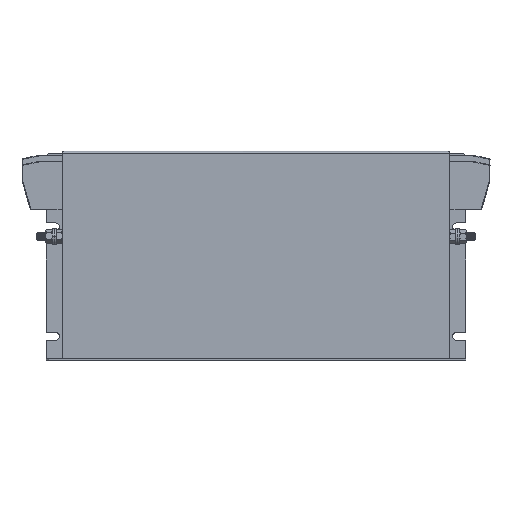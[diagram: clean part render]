
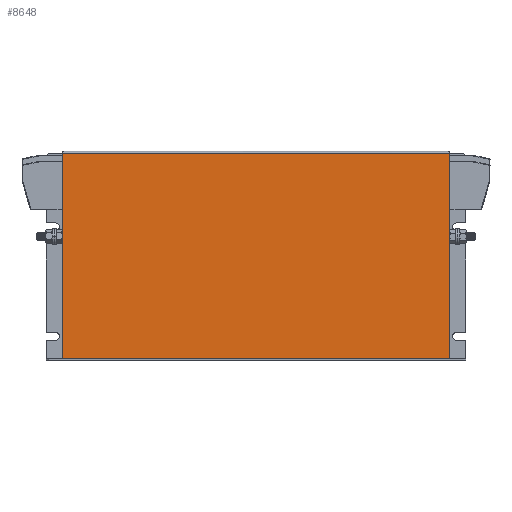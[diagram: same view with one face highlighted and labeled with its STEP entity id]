
A CAD part, top view. The second image highlights one B-rep face of the part: STEP entity #8648.
In plain terms, the highlighted planar face has unit normal (0, 0, 1).
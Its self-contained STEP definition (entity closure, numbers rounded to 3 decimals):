
#248 = LINE ( 'NONE', #9936, #8689 ) ;
#465 = VECTOR ( 'NONE', #5732, 1000. ) ;
#693 = LINE ( 'NONE', #1860, #465 ) ;
#701 = EDGE_LOOP ( 'NONE', ( #9561, #2693, #7972, #2145 ) ) ;
#1325 = VECTOR ( 'NONE', #3537, 1000. ) ;
#1385 = VERTEX_POINT ( 'NONE', #2430 ) ;
#1860 = CARTESIAN_POINT ( 'NONE',  ( 332., 172., 1.5 ) ) ;
#2145 = ORIENTED_EDGE ( 'NONE', *, *, #3963, .T. ) ;
#2277 = VERTEX_POINT ( 'NONE', #3243 ) ;
#2430 = CARTESIAN_POINT ( 'NONE',  ( 13., 1.5, 1.5 ) ) ;
#2693 = ORIENTED_EDGE ( 'NONE', *, *, #9071, .T. ) ;
#2852 = VERTEX_POINT ( 'NONE', #9925 ) ;
#3048 = VECTOR ( 'NONE', #9957, 1000. ) ;
#3243 = CARTESIAN_POINT ( 'NONE',  ( 332., 170.5, 1.5 ) ) ;
#3537 = DIRECTION ( 'NONE',  ( 0., -1., 0. ) ) ;
#3645 = CARTESIAN_POINT ( 'NONE',  ( 332., 1.5, 1.5 ) ) ;
#3963 = EDGE_CURVE ( 'NONE', #1385, #9530, #248, .T. ) ;
#4008 = LINE ( 'NONE', #6720, #1325 ) ;
#4150 = PLANE ( 'NONE',  #6841 ) ;
#4192 = DIRECTION ( 'NONE',  ( -1., 0., 0. ) ) ;
#4220 = DIRECTION ( 'NONE',  ( 0., 0., -1. ) ) ;
#5392 = DIRECTION ( 'NONE',  ( 1., 0., 0. ) ) ;
#5732 = DIRECTION ( 'NONE',  ( 0., -1., 0. ) ) ;
#6720 = CARTESIAN_POINT ( 'NONE',  ( 13., 172., 1.5 ) ) ;
#6841 = AXIS2_PLACEMENT_3D ( 'NONE', #8780, #4220, #4192 ) ;
#6885 = CARTESIAN_POINT ( 'NONE',  ( 13., 170.5, 1.5 ) ) ;
#7972 = ORIENTED_EDGE ( 'NONE', *, *, #9516, .T. ) ;
#8409 = LINE ( 'NONE', #6885, #3048 ) ;
#8648 = ADVANCED_FACE ( 'NONE', ( #9732 ), #4150, .F. ) ;
#8689 = VECTOR ( 'NONE', #5392, 1000. ) ;
#8780 = CARTESIAN_POINT ( 'NONE',  ( 13., 172., 1.5 ) ) ;
#9071 = EDGE_CURVE ( 'NONE', #2277, #2852, #8409, .T. ) ;
#9335 = EDGE_CURVE ( 'NONE', #2277, #9530, #693, .T. ) ;
#9516 = EDGE_CURVE ( 'NONE', #2852, #1385, #4008, .T. ) ;
#9530 = VERTEX_POINT ( 'NONE', #3645 ) ;
#9561 = ORIENTED_EDGE ( 'NONE', *, *, #9335, .F. ) ;
#9732 = FACE_OUTER_BOUND ( 'NONE', #701, .T. ) ;
#9925 = CARTESIAN_POINT ( 'NONE',  ( 13., 170.5, 1.5 ) ) ;
#9936 = CARTESIAN_POINT ( 'NONE',  ( 13., 1.5, 1.5 ) ) ;
#9957 = DIRECTION ( 'NONE',  ( -1., 0., 0. ) ) ;
